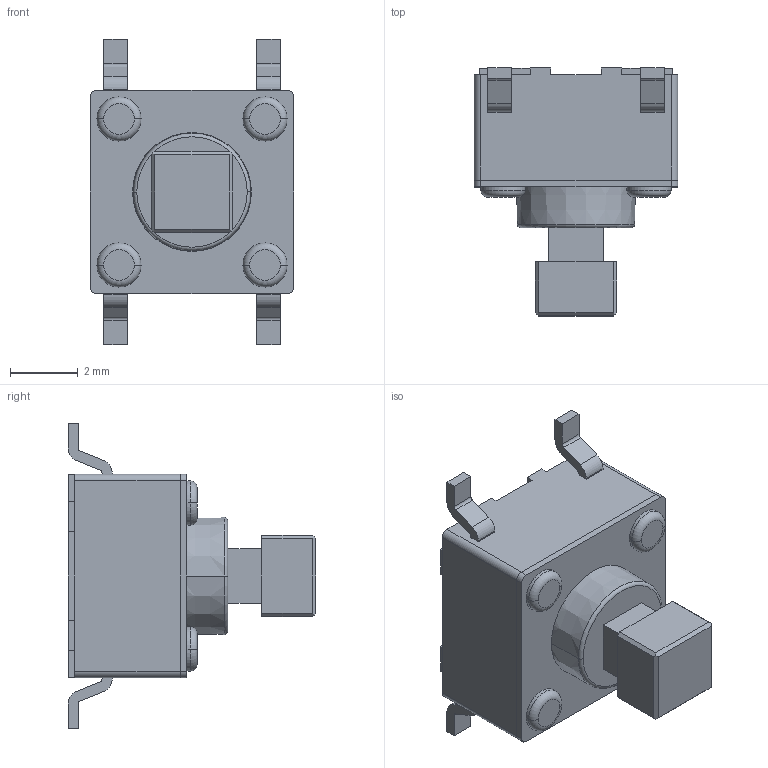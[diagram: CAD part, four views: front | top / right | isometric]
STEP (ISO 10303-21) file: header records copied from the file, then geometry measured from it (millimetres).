
FILE_DESCRIPTION((''),'2;1');
FILE_NAME('JQA6060YA-C0431-01AG-1-101_ASM','2026-10-19T15:35:00',('Admin'),(''),'CREO PARAMETRIC BY PTC INC, 2019224','CREO PARAMETRIC BY PTC INC, 2019224','');
FILE_SCHEMA(('AUTOMOTIVE_DESIGN { 1 0 10303 214 1 1 1 1 }'));
Length unit declared in the file: millimetre
Products named in the file (3): JQA6060YA-C0431-01AG-1-101_02; JQA6060YA-C0431-01AG-1-101_05; JQA6060YA-C0431-01AG-1-101_ASM
Assembly tree (2 placements, depth 2):
  JQA6060YA-C0431-01AG-1-101_ASM
    JQA6060YA-C0431-01AG-1-101_02
    JQA6060YA-C0431-01AG-1-101_05
Bounding box: 6 x 7.3 x 9 mm (x, y, z)
Volume: 147.4 mm3; surface area: 281.8 mm2
Topology: 2 solids, 2 shells, 161 faces, 426 edges, 294 vertices
Faces by surface type: plane 99, cylinder 50, torus 10, cone 2
Entity records: 6854 total; most frequent: DIRECTION 894, CARTESIAN_POINT 879, ORIENTED_EDGE 832, PRESENTATION_STYLE_ASSIGNMENT 420, EDGE_CURVE 416, STYLED_ITEM 376, CURVE_STYLE 375, VECTOR 302
